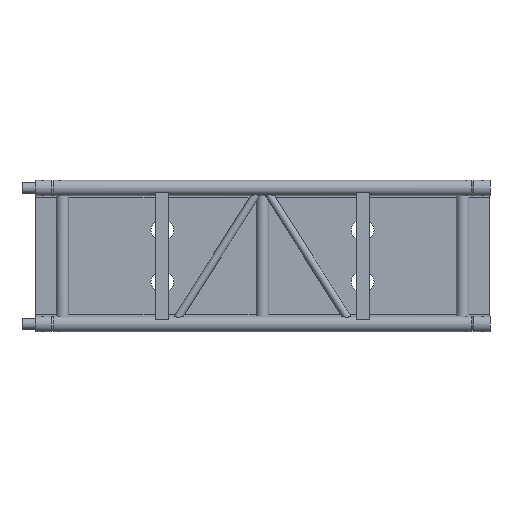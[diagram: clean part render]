
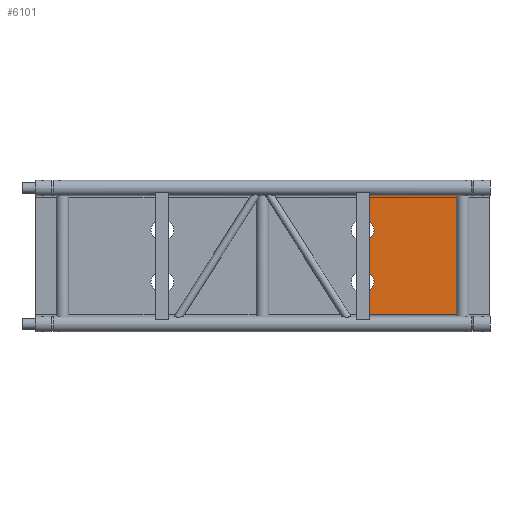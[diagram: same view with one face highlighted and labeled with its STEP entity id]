
A CAD part, front view. The second image highlights one B-rep face of the part: STEP entity #6101.
In plain terms, the highlighted planar face has unit normal (0, -1, 0).
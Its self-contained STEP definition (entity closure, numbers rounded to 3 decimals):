
#553=FACE_OUTER_BOUND('',#901,.T.);
#901=EDGE_LOOP('',(#3951,#3952,#3953,#3954,#3955,#3956,#3957,#3958));
#1415=CIRCLE('',#6478,37.5);
#1416=CIRCLE('',#6479,37.5);
#1665=LINE('',#8941,#2069);
#1666=LINE('',#8942,#2070);
#1667=LINE('',#8943,#2071);
#1671=LINE('',#8954,#2075);
#1672=LINE('',#8956,#2076);
#1673=LINE('',#8957,#2077);
#2069=VECTOR('',#7175,10.);
#2070=VECTOR('',#7176,10.);
#2071=VECTOR('',#7177,10.);
#2075=VECTOR('',#7193,10.);
#2076=VECTOR('',#7194,10.);
#2077=VECTOR('',#7195,10.);
#2454=VERTEX_POINT('',#8876);
#2458=VERTEX_POINT('',#8884);
#2459=VERTEX_POINT('',#8886);
#2464=VERTEX_POINT('',#8896);
#2465=VERTEX_POINT('',#8898);
#2469=VERTEX_POINT('',#8906);
#2483=VERTEX_POINT('',#8953);
#2484=VERTEX_POINT('',#8955);
#3075=EDGE_CURVE('',#2465,#2469,#1665,.T.);
#3076=EDGE_CURVE('',#2459,#2464,#1666,.T.);
#3077=EDGE_CURVE('',#2454,#2458,#1667,.T.);
#3081=EDGE_CURVE('',#2458,#2459,#1415,.T.);
#3082=EDGE_CURVE('',#2464,#2465,#1416,.T.);
#3083=EDGE_CURVE('',#2469,#2483,#1671,.T.);
#3084=EDGE_CURVE('',#2483,#2484,#1672,.T.);
#3085=EDGE_CURVE('',#2454,#2484,#1673,.T.);
#3951=ORIENTED_EDGE('',*,*,#3077,.T.);
#3952=ORIENTED_EDGE('',*,*,#3081,.T.);
#3953=ORIENTED_EDGE('',*,*,#3076,.T.);
#3954=ORIENTED_EDGE('',*,*,#3082,.T.);
#3955=ORIENTED_EDGE('',*,*,#3075,.T.);
#3956=ORIENTED_EDGE('',*,*,#3083,.T.);
#3957=ORIENTED_EDGE('',*,*,#3084,.T.);
#3958=ORIENTED_EDGE('',*,*,#3085,.F.);
#5543=PLANE('',#6477);
#6101=ADVANCED_FACE('',(#553),#5543,.T.);
#6477=AXIS2_PLACEMENT_3D('',#8950,#7187,#7188);
#6478=AXIS2_PLACEMENT_3D('',#8951,#7189,#7190);
#6479=AXIS2_PLACEMENT_3D('',#8952,#7191,#7192);
#7175=DIRECTION('',(0.,0.,-1.));
#7176=DIRECTION('',(0.,0.,-1.));
#7177=DIRECTION('',(0.,0.,-1.));
#7187=DIRECTION('center_axis',(0.,-1.,0.));
#7188=DIRECTION('ref_axis',(0.,0.,-1.));
#7189=DIRECTION('center_axis',(0.,1.,0.));
#7190=DIRECTION('ref_axis',(0.,0.,
1.));
#7191=DIRECTION('center_axis',(0.,1.,0.));
#7192=DIRECTION('ref_axis',(0.,0.,1.));
#7193=DIRECTION('',(1.,0.,0.));
#7194=DIRECTION('',(0.,0.,1.));
#7195=DIRECTION('',(1.,0.,0.));
#8876=CARTESIAN_POINT('',(1277.975,74.,-30.));
#8884=CARTESIAN_POINT('',(1277.975,74.,-128.524));
#8886=CARTESIAN_POINT('',(1277.975,74.,-193.476));
#8896=CARTESIAN_POINT('',(1277.975,74.,-326.524));
#8898=CARTESIAN_POINT('',(1277.975,74.,-391.476));
#8906=CARTESIAN_POINT('',(1277.975,74.,-490.));
#8941=CARTESIAN_POINT('',(1277.975,74.,-496.5));
#8942=CARTESIAN_POINT('',(1277.975,74.,-496.5));
#8943=CARTESIAN_POINT('',(1277.975,74.,-496.5));
#8950=CARTESIAN_POINT('Origin',(1254.225,74.,-490.));
#8951=CARTESIAN_POINT('Origin',(1259.225,74.,-161.));
#8952=CARTESIAN_POINT('Origin',(1259.225,74.,-359.));
#8953=CARTESIAN_POINT('',(1633.163,74.,-490.));
#8954=CARTESIAN_POINT('',(1254.225,74.,-490.));
#8955=CARTESIAN_POINT('',(1633.163,74.,-30.));
#8956=CARTESIAN_POINT('',(1633.163,74.,-260.));
#8957=CARTESIAN_POINT('',(1254.225,74.,-30.));
